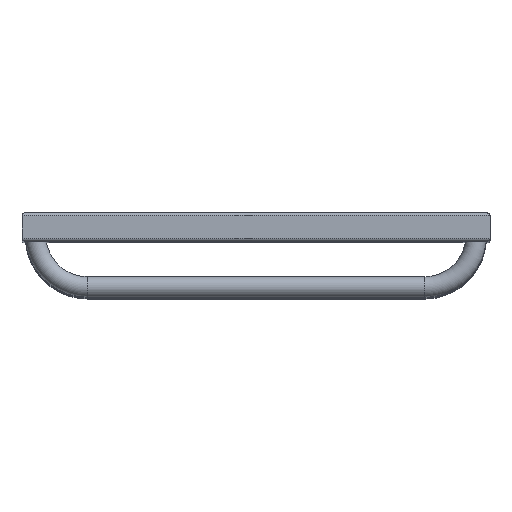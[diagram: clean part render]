
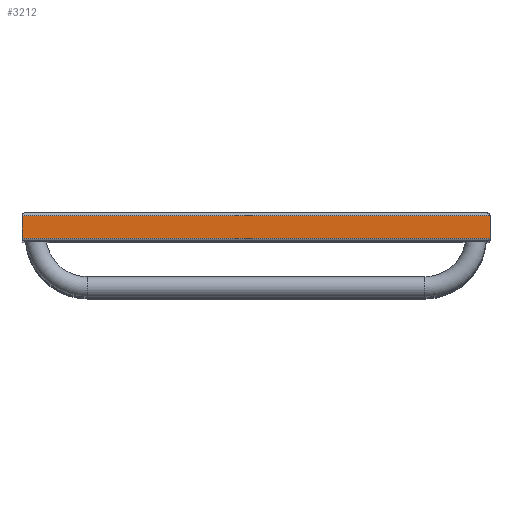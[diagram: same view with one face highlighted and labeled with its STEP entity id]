
A CAD part, top view. The second image highlights one B-rep face of the part: STEP entity #3212.
In plain terms, the highlighted planar face has unit normal (0, 0, 1).
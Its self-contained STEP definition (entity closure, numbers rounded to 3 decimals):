
#243=CARTESIAN_POINT('',(250.0,12.,1215.0));
#244=VERTEX_POINT('',#243);
#251=CARTESIAN_POINT('',(250.0,-12.,1215.0));
#252=VERTEX_POINT('',#251);
#253=CARTESIAN_POINT('',(250.0,12.,1215.0));
#254=DIRECTION('',(0.0,-1.0,0.0));
#255=VECTOR('',#254,24.);
#256=LINE('',#253,#255);
#257=EDGE_CURVE('',#244,#252,#256,.T.);
#3063=CARTESIAN_POINT('',(-250.0,12.,1215.0));
#3064=VERTEX_POINT('',#3063);
#3065=CARTESIAN_POINT('',(-250.0,12.,1215.0));
#3066=DIRECTION('',(1.0,0.0,0.0));
#3067=VECTOR('',#3066,500.0);
#3068=LINE('',#3065,#3067);
#3069=EDGE_CURVE('',#3064,#244,#3068,.T.);
#3107=CARTESIAN_POINT('',(-250.0,-12.,1215.0));
#3108=VERTEX_POINT('',#3107);
#3115=CARTESIAN_POINT('',(-250.0,-12.,1215.0));
#3116=DIRECTION('',(0.0,1.0,0.0));
#3117=VECTOR('',#3116,24.);
#3118=LINE('',#3115,#3117);
#3119=EDGE_CURVE('',#3108,#3064,#3118,.T.);
#3171=CARTESIAN_POINT('',(250.0,-12.,1215.0));
#3172=DIRECTION('',(-1.0,0.0,0.0));
#3173=VECTOR('',#3172,500.0);
#3174=LINE('',#3171,#3173);
#3175=EDGE_CURVE('',#252,#3108,#3174,.T.);
#3201=CARTESIAN_POINT('',(235.0,0.,1215.0));
#3202=DIRECTION('',(0.0,0.0,1.0));
#3203=DIRECTION('',(1.0,0.0,0.0));
#3204=AXIS2_PLACEMENT_3D('',#3201,#3202,#3203);
#3205=PLANE('',#3204);
#3206=ORIENTED_EDGE('',*,*,#3069,.F.);
#3207=ORIENTED_EDGE('',*,*,#3119,.F.);
#3208=ORIENTED_EDGE('',*,*,#3175,.F.);
#3209=ORIENTED_EDGE('',*,*,#257,.F.);
#3210=EDGE_LOOP('',(#3206,#3207,#3208,#3209));
#3211=FACE_OUTER_BOUND('',#3210,.T.);
#3212=ADVANCED_FACE('',(#3211),#3205,.T.);
